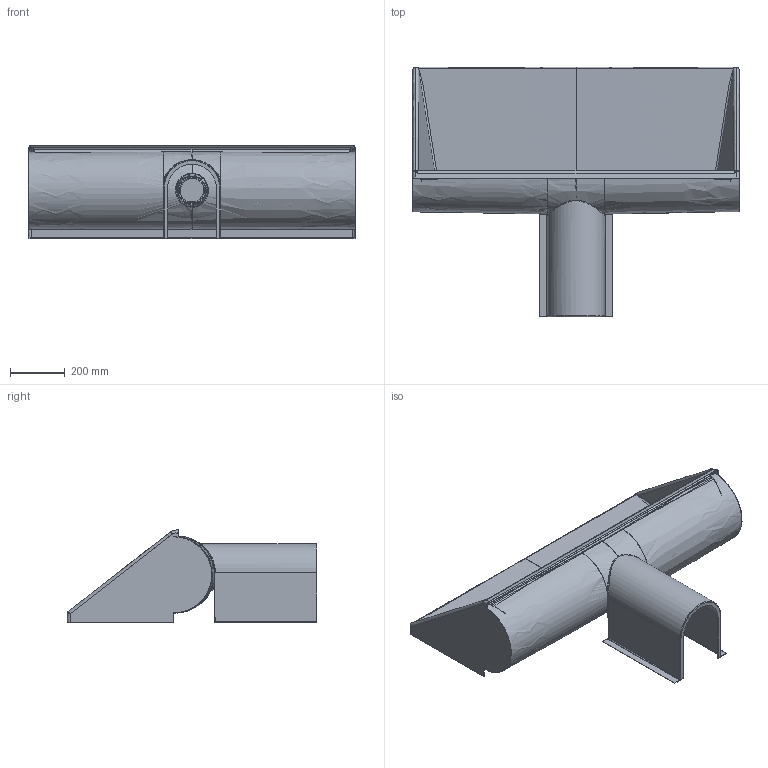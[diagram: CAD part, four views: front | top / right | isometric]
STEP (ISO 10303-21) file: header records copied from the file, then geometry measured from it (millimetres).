
FILE_DESCRIPTION((''),'2;1');
FILE_NAME('D:\ConTechCAD\Kunder\Uridan\Kummer\GR-1200\3D-Eksport\GR-1200.stp','2010-02-03T17:57:20',('Finn Lundsgaard'),(''),'Autodesk Inventor 2009','Autodesk Inventor 2009','');
FILE_SCHEMA(('AUTOMOTIVE_DESIGN { 1 0 10303 214 1 1 1 1 }'));
Length unit declared in the file: millimetre
Products named in the file (6): GR-1200_samlet_3D_eksport; Glasfiberrende; Afdækning; dæksel_samlet_GR-3; Dæksel_GR-3; Rør_Dæksel_GR-3
Assembly tree (5 placements, depth 3):
  GR-1200_samlet_3D_eksport
    Glasfiberrende
    Afdækning
    dæksel_samlet_GR-3
      Dæksel_GR-3
      Rør_Dæksel_GR-3
Bounding box: 1190 x 910 x 339.44 mm (x, y, z)
Volume: 2397333.2 mm3; surface area: 4582120.3 mm2
Topology: 4 solids, 4 shells, 359 faces, 931 edges, 564 vertices
Faces by surface type: bspline 233, plane 48, cylinder 39, torus 21, cone 18
Full cylindrical faces by diameter (mm): 85 x1, 90 x3, 90.2 x1, 90.3 x1
Entity records: 41191 total; most frequent: CARTESIAN_POINT 34237, ORIENTED_EDGE 1824, EDGE_CURVE 912, DIRECTION 695, B_SPLINE_CURVE_WITH_KNOTS 582, VERTEX_POINT 563, EDGE_LOOP 378, FACE_OUTER_BOUND 359
